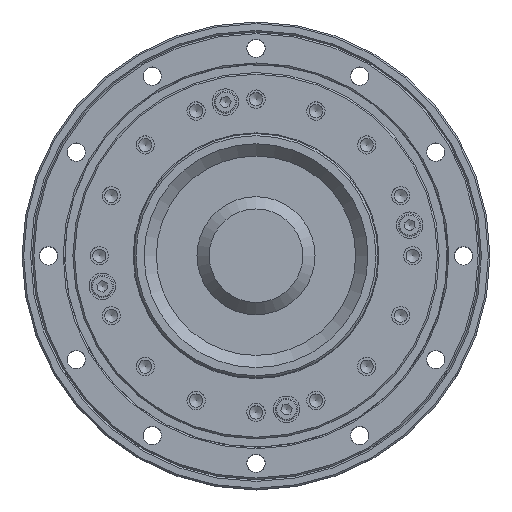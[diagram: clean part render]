
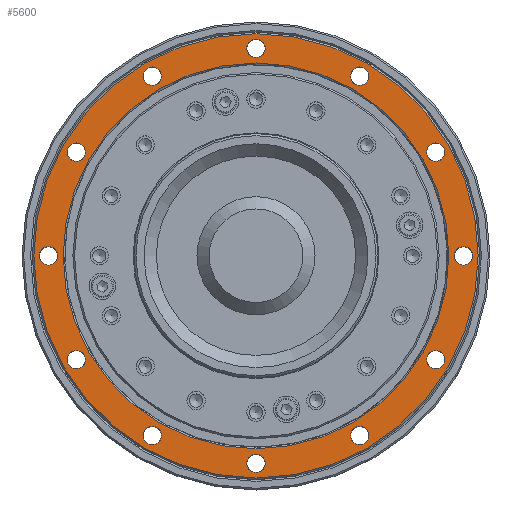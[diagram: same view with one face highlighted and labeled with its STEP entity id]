
A CAD part, top view. The second image highlights one B-rep face of the part: STEP entity #5600.
In plain terms, the highlighted planar face has unit normal (0, 0, 1).
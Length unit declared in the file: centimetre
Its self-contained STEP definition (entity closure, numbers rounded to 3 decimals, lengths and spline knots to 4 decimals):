
#431=PLANE('',#6369);
#950=FACE_BOUND('',#2224,.T.);
#951=FACE_BOUND('',#2225,.T.);
#952=FACE_BOUND('',#2226,.T.);
#953=FACE_BOUND('',#2227,.T.);
#954=FACE_BOUND('',#2228,.T.);
#955=FACE_BOUND('',#2229,.T.);
#956=FACE_BOUND('',#2230,.T.);
#957=FACE_BOUND('',#2231,.T.);
#958=FACE_BOUND('',#2232,.T.);
#959=FACE_BOUND('',#2233,.T.);
#960=FACE_BOUND('',#2234,.T.);
#961=FACE_BOUND('',#2235,.T.);
#962=FACE_BOUND('',#2236,.T.);
#1516=FACE_OUTER_BOUND('',#2223,.T.);
#2223=EDGE_LOOP('',(#4691));
#2224=EDGE_LOOP('',(#4692));
#2225=EDGE_LOOP('',(#4693));
#2226=EDGE_LOOP('',(#4694));
#2227=EDGE_LOOP('',(#4695));
#2228=EDGE_LOOP('',(#4696));
#2229=EDGE_LOOP('',(#4697));
#2230=EDGE_LOOP('',(#4698));
#2231=EDGE_LOOP('',(#4699));
#2232=EDGE_LOOP('',(#4700));
#2233=EDGE_LOOP('',(#4701));
#2234=EDGE_LOOP('',(#4702));
#2235=EDGE_LOOP('',(#4703));
#2236=EDGE_LOOP('',(#4704));
#2808=CIRCLE('',#6368,4.74);
#2809=CIRCLE('',#6370,5.46);
#2810=CIRCLE('',#6371,0.225);
#2811=CIRCLE('',#6372,0.225);
#2812=CIRCLE('',#6373,0.225);
#2813=CIRCLE('',#6374,0.225);
#2814=CIRCLE('',#6375,0.225);
#2815=CIRCLE('',#6376,0.225);
#2816=CIRCLE('',#6377,0.225);
#2817=CIRCLE('',#6378,0.225);
#2818=CIRCLE('',#6379,0.225);
#2819=CIRCLE('',#6380,0.225);
#2820=CIRCLE('',#6381,0.225);
#2821=CIRCLE('',#6382,0.225);
#3250=VERTEX_POINT('',#9517);
#3251=VERTEX_POINT('',#9520);
#3252=VERTEX_POINT('',#9522);
#3253=VERTEX_POINT('',#9524);
#3254=VERTEX_POINT('',#9526);
#3255=VERTEX_POINT('',#9528);
#3256=VERTEX_POINT('',#9530);
#3257=VERTEX_POINT('',#9532);
#3258=VERTEX_POINT('',#9534);
#3259=VERTEX_POINT('',#9536);
#3260=VERTEX_POINT('',#9538);
#3261=VERTEX_POINT('',#9540);
#3262=VERTEX_POINT('',#9542);
#3263=VERTEX_POINT('',#9544);
#3786=EDGE_CURVE('',#3250,#3250,#2808,.T.);
#3787=EDGE_CURVE('',#3251,#3251,#2809,.T.);
#3788=EDGE_CURVE('',#3252,#3252,#2810,.T.);
#3789=EDGE_CURVE('',#3253,#3253,#2811,.T.);
#3790=EDGE_CURVE('',#3254,#3254,#2812,.T.);
#3791=EDGE_CURVE('',#3255,#3255,#2813,.T.);
#3792=EDGE_CURVE('',#3256,#3256,#2814,.T.);
#3793=EDGE_CURVE('',#3257,#3257,#2815,.T.);
#3794=EDGE_CURVE('',#3258,#3258,#2816,.T.);
#3795=EDGE_CURVE('',#3259,#3259,#2817,.T.);
#3796=EDGE_CURVE('',#3260,#3260,#2818,.T.);
#3797=EDGE_CURVE('',#3261,#3261,#2819,.T.);
#3798=EDGE_CURVE('',#3262,#3262,#2820,.T.);
#3799=EDGE_CURVE('',#3263,#3263,#2821,.T.);
#4691=ORIENTED_EDGE('',*,*,#3787,.F.);
#4692=ORIENTED_EDGE('',*,*,#3788,.T.);
#4693=ORIENTED_EDGE('',*,*,#3789,.T.);
#4694=ORIENTED_EDGE('',*,*,#3790,.T.);
#4695=ORIENTED_EDGE('',*,*,#3791,.T.);
#4696=ORIENTED_EDGE('',*,*,#3792,.T.);
#4697=ORIENTED_EDGE('',*,*,#3793,.T.);
#4698=ORIENTED_EDGE('',*,*,#3794,.T.);
#4699=ORIENTED_EDGE('',*,*,#3795,.T.);
#4700=ORIENTED_EDGE('',*,*,#3796,.T.);
#4701=ORIENTED_EDGE('',*,*,#3797,.T.);
#4702=ORIENTED_EDGE('',*,*,#3798,.T.);
#4703=ORIENTED_EDGE('',*,*,#3799,.T.);
#4704=ORIENTED_EDGE('',*,*,#3786,.F.);
#5600=ADVANCED_FACE('',(#1516,#950,#951,#952,#953,#954,#955,#956,#957,#958,
#959,#960,#961,#962),#431,.T.);
#6368=AXIS2_PLACEMENT_3D('',#9518,#7867,#7868);
#6369=AXIS2_PLACEMENT_3D('',#9519,#7869,#7870);
#6370=AXIS2_PLACEMENT_3D('',#9521,#7871,#7872);
#6371=AXIS2_PLACEMENT_3D('',#9523,#7873,#7874);
#6372=AXIS2_PLACEMENT_3D('',#9525,#7875,#7876);
#6373=AXIS2_PLACEMENT_3D('',#9527,#7877,#7878);
#6374=AXIS2_PLACEMENT_3D('',#9529,#7879,#7880);
#6375=AXIS2_PLACEMENT_3D('',#9531,#7881,#7882);
#6376=AXIS2_PLACEMENT_3D('',#9533,#7883,#7884);
#6377=AXIS2_PLACEMENT_3D('',#9535,#7885,#7886);
#6378=AXIS2_PLACEMENT_3D('',#9537,#7887,#7888);
#6379=AXIS2_PLACEMENT_3D('',#9539,#7889,#7890);
#6380=AXIS2_PLACEMENT_3D('',#9541,#7891,#7892);
#6381=AXIS2_PLACEMENT_3D('',#9543,#7893,#7894);
#6382=AXIS2_PLACEMENT_3D('',#9545,#7895,#7896);
#7867=DIRECTION('center_axis',(0.,0.,1.));
#7868=DIRECTION('ref_axis',(0.,1.,0.));
#7869=DIRECTION('center_axis',(0.,0.,1.));
#7870=DIRECTION('ref_axis',(-1.,0.,0.));
#7871=DIRECTION('center_axis',(0.,0.,-1.));
#7872=DIRECTION('ref_axis',(0.,1.,0.));
#7873=DIRECTION('center_axis',(0.,0.,-1.));
#7874=DIRECTION('ref_axis',(1.,0.,0.));
#7875=DIRECTION('center_axis',(0.,0.,-1.));
#7876=DIRECTION('ref_axis',(1.,0.,0.));
#7877=DIRECTION('center_axis',(0.,0.,-1.));
#7878=DIRECTION('ref_axis',(1.,0.,0.));
#7879=DIRECTION('center_axis',(0.,0.,-1.));
#7880=DIRECTION('ref_axis',(1.,0.,0.));
#7881=DIRECTION('center_axis',(0.,0.,-1.));
#7882=DIRECTION('ref_axis',(1.,0.,0.));
#7883=DIRECTION('center_axis',(0.,0.,-1.));
#7884=DIRECTION('ref_axis',(1.,0.,0.));
#7885=DIRECTION('center_axis',(0.,0.,-1.));
#7886=DIRECTION('ref_axis',(1.,0.,0.));
#7887=DIRECTION('center_axis',(0.,0.,-1.));
#7888=DIRECTION('ref_axis',(1.,0.,0.));
#7889=DIRECTION('center_axis',(0.,0.,-1.));
#7890=DIRECTION('ref_axis',(1.,0.,0.));
#7891=DIRECTION('center_axis',(0.,0.,-1.));
#7892=DIRECTION('ref_axis',(1.,0.,0.));
#7893=DIRECTION('center_axis',(0.,0.,-1.));
#7894=DIRECTION('ref_axis',(1.,0.,0.));
#7895=DIRECTION('center_axis',(0.,0.,-1.));
#7896=DIRECTION('ref_axis',(1.,0.,0.));
#9517=CARTESIAN_POINT('',(0.,-4.74,1.77));
#9518=CARTESIAN_POINT('Origin',(0.,0.,1.77));
#9519=CARTESIAN_POINT('Origin',(0.,-5.5,1.77));
#9520=CARTESIAN_POINT('',(0.,-5.46,1.77));
#9521=CARTESIAN_POINT('Origin',(0.,0.,1.77));
#9522=CARTESIAN_POINT('',(-0.225,5.1,1.77));
#9523=CARTESIAN_POINT('Origin',(0.,5.1,1.77));
#9524=CARTESIAN_POINT('',(4.1917,2.55,1.77));
#9525=CARTESIAN_POINT('Origin',(4.4167,2.55,1.77));
#9526=CARTESIAN_POINT('',(-5.325,0.,1.77));
#9527=CARTESIAN_POINT('Origin',(-5.1,0.,1.77));
#9528=CARTESIAN_POINT('',(-2.775,-4.4167,1.77));
#9529=CARTESIAN_POINT('Origin',(-2.55,-4.4167,1.77));
#9530=CARTESIAN_POINT('',(2.325,-4.4167,1.77));
#9531=CARTESIAN_POINT('Origin',(2.55,-4.4167,1.77));
#9532=CARTESIAN_POINT('',(4.875,0.,1.77));
#9533=CARTESIAN_POINT('Origin',(5.1,0.,1.77));
#9534=CARTESIAN_POINT('',(4.1917,-2.55,1.77));
#9535=CARTESIAN_POINT('Origin',(4.4167,-2.55,1.77));
#9536=CARTESIAN_POINT('',(-0.225,-5.1,1.77));
#9537=CARTESIAN_POINT('Origin',(0.,-5.1,1.77));
#9538=CARTESIAN_POINT('',(-4.6417,-2.55,1.77));
#9539=CARTESIAN_POINT('Origin',(-4.4167,-2.55,1.77));
#9540=CARTESIAN_POINT('',(-4.6417,2.55,1.77));
#9541=CARTESIAN_POINT('Origin',(-4.4167,2.55,1.77));
#9542=CARTESIAN_POINT('',(2.325,4.4167,1.77));
#9543=CARTESIAN_POINT('Origin',(2.55,4.4167,1.77));
#9544=CARTESIAN_POINT('',(-2.775,4.4167,1.77));
#9545=CARTESIAN_POINT('Origin',(-2.55,4.4167,1.77));
